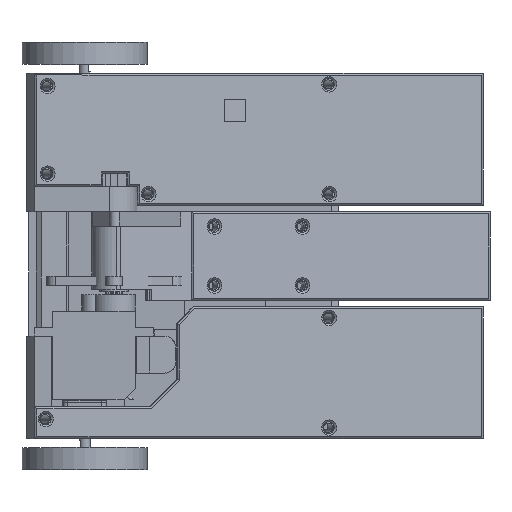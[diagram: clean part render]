
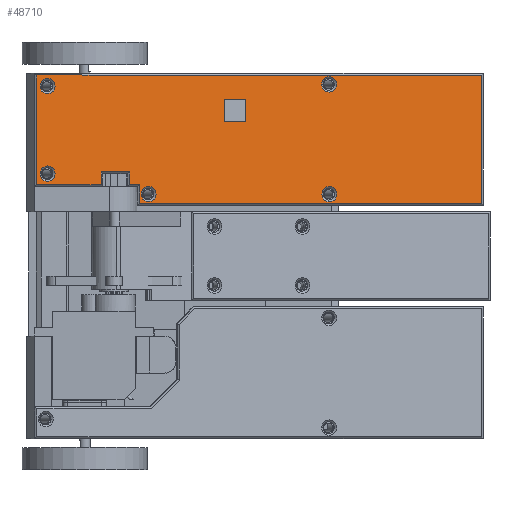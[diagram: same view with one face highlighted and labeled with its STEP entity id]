
A CAD part, top view. The second image highlights one B-rep face of the part: STEP entity #48710.
In plain terms, the highlighted planar face has unit normal (0.258, 0, 0.966).
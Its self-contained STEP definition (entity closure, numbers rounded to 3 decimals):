
#658=FACE_BOUND('',#8794,.T.);
#659=FACE_BOUND('',#8795,.T.);
#660=FACE_BOUND('',#8796,.T.);
#661=FACE_BOUND('',#8797,.T.);
#662=FACE_BOUND('',#8798,.T.);
#3204=PLANE('',#51241);
#5863=FACE_OUTER_BOUND('',#8793,.T.);
#8793=EDGE_LOOP('',(#45497,#45498,#45499,#45500,#45501,#45502,#45503,#45504,
#45505,#45506));
#8794=EDGE_LOOP('',(#45507));
#8795=EDGE_LOOP('',(#45508));
#8796=EDGE_LOOP('',(#45509));
#8797=EDGE_LOOP('',(#45510));
#8798=EDGE_LOOP('',(#45511));
#9423=CIRCLE('',#51242,2.1);
#9424=CIRCLE('',#51243,2.1);
#9425=CIRCLE('',#51244,2.1);
#9426=CIRCLE('',#51245,2.1);
#9427=CIRCLE('',#51246,2.1);
#15524=LINE('',#136111,#20035);
#15526=LINE('',#136115,#20037);
#15529=LINE('',#136121,#20040);
#15532=LINE('',#136127,#20043);
#15533=LINE('',#136129,#20044);
#15534=LINE('',#136131,#20045);
#15535=LINE('',#136133,#20046);
#15536=LINE('',#136135,#20047);
#15537=LINE('',#136137,#20048);
#15538=LINE('',#136138,#20049);
#20035=VECTOR('',#60443,10.);
#20037=VECTOR('',#60447,10.);
#20040=VECTOR('',#60452,10.);
#20043=VECTOR('',#60457,10.);
#20044=VECTOR('',#60458,10.);
#20045=VECTOR('',#60459,10.);
#20046=VECTOR('',#60460,10.);
#20047=VECTOR('',#60461,10.);
#20048=VECTOR('',#60462,10.);
#20049=VECTOR('',#60463,10.);
#24582=VERTEX_POINT('',#136108);
#24583=VERTEX_POINT('',#136110);
#24584=VERTEX_POINT('',#136114);
#24586=VERTEX_POINT('',#136120);
#24588=VERTEX_POINT('',#136126);
#24589=VERTEX_POINT('',#136128);
#24590=VERTEX_POINT('',#136130);
#24591=VERTEX_POINT('',#136132);
#24592=VERTEX_POINT('',#136134);
#24593=VERTEX_POINT('',#136136);
#24594=VERTEX_POINT('',#136139);
#24595=VERTEX_POINT('',#136141);
#24596=VERTEX_POINT('',#136143);
#24597=VERTEX_POINT('',#136145);
#24598=VERTEX_POINT('',#136147);
#31559=EDGE_CURVE('',#24582,#24583,#15524,.T.);
#31561=EDGE_CURVE('',#24583,#24584,#15526,.T.);
#31564=EDGE_CURVE('',#24584,#24586,#15529,.T.);
#31567=EDGE_CURVE('',#24588,#24582,#15532,.T.);
#31568=EDGE_CURVE('',#24589,#24588,#15533,.T.);
#31569=EDGE_CURVE('',#24590,#24589,#15534,.T.);
#31570=EDGE_CURVE('',#24591,#24590,#15535,.T.);
#31571=EDGE_CURVE('',#24592,#24591,#15536,.T.);
#31572=EDGE_CURVE('',#24593,#24592,#15537,.T.);
#31573=EDGE_CURVE('',#24586,#24593,#15538,.T.);
#31574=EDGE_CURVE('',#24594,#24594,#9423,.T.);
#31575=EDGE_CURVE('',#24595,#24595,#9424,.T.);
#31576=EDGE_CURVE('',#24596,#24596,#9425,.T.);
#31577=EDGE_CURVE('',#24597,#24597,#9426,.T.);
#31578=EDGE_CURVE('',#24598,#24598,#9427,.T.);
#45497=ORIENTED_EDGE('',*,*,#31564,.F.);
#45498=ORIENTED_EDGE('',*,*,#31561,.F.);
#45499=ORIENTED_EDGE('',*,*,#31559,.F.);
#45500=ORIENTED_EDGE('',*,*,#31567,.F.);
#45501=ORIENTED_EDGE('',*,*,#31568,.F.);
#45502=ORIENTED_EDGE('',*,*,#31569,.F.);
#45503=ORIENTED_EDGE('',*,*,#31570,.F.);
#45504=ORIENTED_EDGE('',*,*,#31571,.F.);
#45505=ORIENTED_EDGE('',*,*,#31572,.F.);
#45506=ORIENTED_EDGE('',*,*,#31573,.F.);
#45507=ORIENTED_EDGE('',*,*,#31574,.F.);
#45508=ORIENTED_EDGE('',*,*,#31575,.F.);
#45509=ORIENTED_EDGE('',*,*,#31576,.F.);
#45510=ORIENTED_EDGE('',*,*,#31577,.F.);
#45511=ORIENTED_EDGE('',*,*,#31578,.F.);
#48710=ADVANCED_FACE('',(#5863,#658,#659,#660,#661,#662),#3204,.T.);
#51241=AXIS2_PLACEMENT_3D('',#136125,#60455,#60456);
#51242=AXIS2_PLACEMENT_3D('',#136140,#60464,#60465);
#51243=AXIS2_PLACEMENT_3D('',#136142,#60466,#60467);
#51244=AXIS2_PLACEMENT_3D('',#136144,#60468,#60469);
#51245=AXIS2_PLACEMENT_3D('',#136146,#60470,#60471);
#51246=AXIS2_PLACEMENT_3D('',#136148,#60472,#60473);
#60443=DIRECTION('',(0.,1.,0.));
#60447=DIRECTION('',(-0.966,0.,0.258));
#60452=DIRECTION('',(0.,-1.,0.));
#60455=DIRECTION('center_axis',(0.258,0.,
0.966));
#60456=DIRECTION('ref_axis',(0.966,0.,-0.258));
#60457=DIRECTION('',(-0.966,0.,0.258));
#60458=DIRECTION('',(0.,1.,0.));
#60459=DIRECTION('',(-0.966,0.,0.258));
#60460=DIRECTION('',(0.,-1.,0.));
#60461=DIRECTION('',(0.966,0.,-0.258));
#60462=DIRECTION('',(0.,1.,0.));
#60463=DIRECTION('',(-0.966,0.,0.258));
#60464=DIRECTION('center_axis',(0.258,0.,
0.966));
#60465=DIRECTION('ref_axis',(0.966,0.,-0.258));
#60466=DIRECTION('center_axis',(0.258,0.,
0.966));
#60467=DIRECTION('ref_axis',(0.966,0.,-0.258));
#60468=DIRECTION('center_axis',(0.258,0.,
0.966));
#60469=DIRECTION('ref_axis',(0.966,0.,-0.258));
#60470=DIRECTION('center_axis',(0.258,0.,
0.966));
#60471=DIRECTION('ref_axis',(0.966,0.,-0.258));
#60472=DIRECTION('center_axis',(0.258,0.,
0.966));
#60473=DIRECTION('ref_axis',(0.966,0.,-0.258));
#136108=CARTESIAN_POINT('',(12.179,-32.501,13.134));
#136110=CARTESIAN_POINT('',(12.179,-29.001,13.134));
#136111=CARTESIAN_POINT('',(12.179,-24.801,13.134));
#136114=CARTESIAN_POINT('',(4.449,-29.001,15.195));
#136115=CARTESIAN_POINT('',(26.181,-29.001,9.4));
#136120=CARTESIAN_POINT('',(4.449,-32.501,15.195));
#136121=CARTESIAN_POINT('',(4.449,-28.301,15.195));
#136125=CARTESIAN_POINT('Origin',(47.43,-20.101,3.733));
#136126=CARTESIAN_POINT('',(14.941,-32.501,12.397));
#136127=CARTESIAN_POINT('',(16.994,-32.501,11.85));
#136128=CARTESIAN_POINT('',(14.941,-37.501,12.397));
#136129=CARTESIAN_POINT('',(14.941,-26.551,12.397));
#136130=CARTESIAN_POINT('',(107.82,-37.501,-12.37));
#136131=CARTESIAN_POINT('',(30.944,-37.501,8.13));
#136132=CARTESIAN_POINT('',(107.82,-2.701,-12.37));
#136133=CARTESIAN_POINT('',(107.82,-29.051,-12.37));
#136134=CARTESIAN_POINT('',(-12.959,-2.701,19.837));
#136135=CARTESIAN_POINT('',(77.867,-2.701,-4.383));
#136136=CARTESIAN_POINT('',(-12.959,-32.501,19.837));
#136137=CARTESIAN_POINT('',(-12.959,-11.151,19.837));
#136138=CARTESIAN_POINT('',(16.994,-32.501,11.85));
#136139=CARTESIAN_POINT('',(-12.09,-5.701,19.606));
#136140=CARTESIAN_POINT('Origin',(-10.061,-5.701,19.064));
#136141=CARTESIAN_POINT('',(-12.09,-29.501,19.606));
#136142=CARTESIAN_POINT('Origin',(-10.061,-29.501,19.064));
#136143=CARTESIAN_POINT('',(15.327,-35.001,12.294));
#136144=CARTESIAN_POINT('Origin',(17.356,-35.001,11.753));
#136145=CARTESIAN_POINT('',(64.406,-35.001,-0.793));
#136146=CARTESIAN_POINT('Origin',(66.435,-35.001,-1.334));
#136147=CARTESIAN_POINT('',(64.33,-5.201,-0.773));
#136148=CARTESIAN_POINT('Origin',(66.359,-5.201,-1.314));
